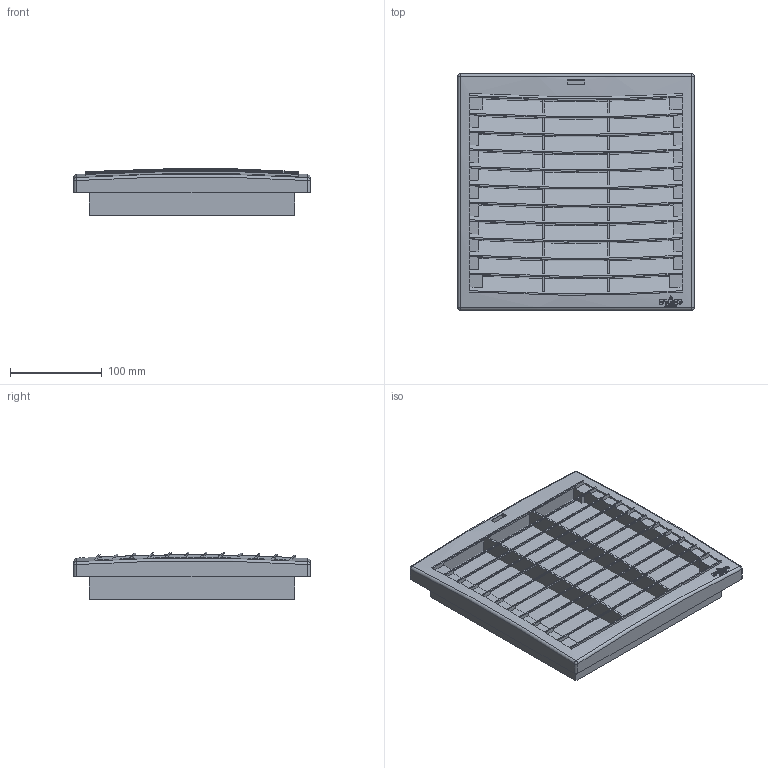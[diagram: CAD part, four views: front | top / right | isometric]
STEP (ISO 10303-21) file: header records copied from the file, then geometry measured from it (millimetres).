
FILE_DESCRIPTION (( 'STEP AP214' ), '1' );
FILE_NAME ('FPO_118_223x223_EPLAN_10_2015.STEP', '2015-10-15T09:34:06', ( '' ), ( '' ), 'SwSTEP 2.0', 'SolidWorks 2015', '' );
FILE_SCHEMA (( 'AUTOMOTIVE_DESIGN' ));
Length unit declared in the file: millimetre
Products named in the file (1): FPO_118_223x223_EPLAN_10_2015
Bounding box: 257 x 257 x 51.28 mm (x, y, z)
Surface area: 300999.7 mm2 (no closed solid volume)
Topology: 0 solids, 11 shells, 214 faces, 1146 edges, 853 vertices
Faces by surface type: plane 100, sphere 74, bspline 29, cylinder 6, torus 5
Entity records: 14670 total; most frequent: CARTESIAN_POINT 3563, DIRECTION 1832, ORIENTED_EDGE 1722, EDGE_CURVE 1142, VERTEX_POINT 853, AXIS2_PLACEMENT_3D 683, CIRCLE 497, VECTOR 466
